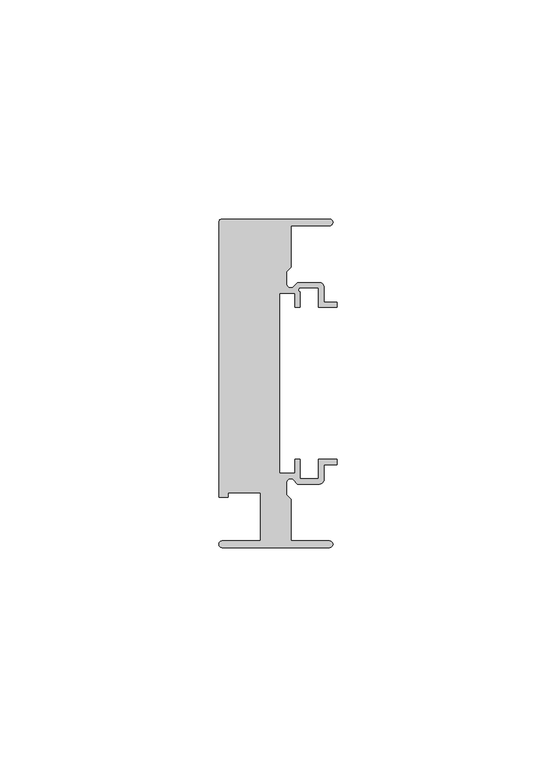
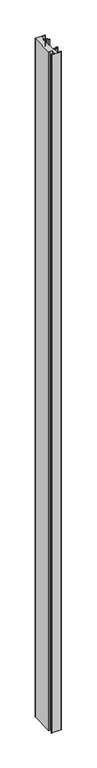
"""IFC4 building model written with IfcOpenShell, lengths in millimetres: member geometry, Прямоугольный импост : 5-AMG-1-Профиль 26Х75 Низ Л."""

from ifc_helpers import new_model, si_unit, point, frame, frame_2d, origin, place, context, project, spatial, polyline, circle_curve, trimmed, segment, composite_curve, outline, extrude, source, transform, mapped, element, save


def member_25cd3a2c(model_context):
    return source(origin(), model_context, "Body", "SweptSolid", [
        extrude(outline(composite_curve([segment(polyline([(-1.7, -37.5), (-26.25, -37.5)]), True, "CONTINUOUS"), segment(trimmed(circle_curve(frame_2d((-26.25, -36.75)), 0.75), [point((-26.25, -37.5))], [point((-26.25, -36.0))], False, "CARTESIAN"), True, "CONTINUOUS"), segment(polyline([(-26.25, -36.0), (-17.5, -36.0), (-17.5, -25.0), (-24.9359877, -25.0), (-24.9359877, -26.0), (-27.0, -26.0), (-27.0, 36.75)]), True, "CONTINUOUS"), segment(trimmed(circle_curve(frame_2d((-26.25, 36.75)), 0.75), [point((-27.0, 36.75))], [point((-26.25, 37.5))], False, "CARTESIAN"), True, "CONTINUOUS"), segment(polyline([(-26.25, 37.5), (-1.7, 37.5)]), True, "CONTINUOUS"), segment(trimmed(circle_curve(frame_2d((-1.7, 36.75)), 0.75), [point((-1.7, 37.5))], [point((-1.7, 36.0))], False, "CARTESIAN"), True, "CONTINUOUS"), segment(polyline([(-1.7, 36.0), (-10.5, 36.0), (-10.5, 26.5029437), (-11.5, 25.5029437), (-11.5, 22.6727922)]), True, "CONTINUOUS"), segment(trimmed(circle_curve(frame_2d((-10.6, 22.6727922)), 0.9), [point((-11.5, 22.6727922))], [point((-9.9636039, 22.0363961))], True, "CARTESIAN"), True, "CONTINUOUS"), segment(polyline([(-9.9636039, 22.0363961), (-9.0, 23.0), (-4.0, 23.0)]), True, "CONTINUOUS"), segment(trimmed(circle_curve(frame_2d((-4.0, 22.0)), 1.0), [point((-4.0, 23.0))], [point((-3.0, 22.0))], False, "CARTESIAN"), True, "CONTINUOUS"), segment(polyline([(-3.0, 22.0), (-3.0, 18.55), (0.0, 18.55), (0.0, 17.35), (-4.2, 17.35), (-4.2, 21.8), (-8.5029437, 21.8)]), True, "CONTINUOUS"), segment(trimmed(circle_curve(frame_2d((-8.3343131, 21.3314262)), 0.4979937), [point((-8.5029437, 21.8))], [point((-8.45, 20.8470563))], True, "CARTESIAN"), True, "CONTINUOUS"), segment(polyline([(-8.45, 20.8470563), (-8.45, 17.35), (-9.65, 17.35), (-9.65, 20.55), (-13.15, 20.55), (-13.15, -20.55), (-9.65, -20.55), (-9.65, -17.35), (-8.45, -17.35), (-8.45, -21.8), (-4.2, -21.8), (-4.2, -17.35), (0.0, -17.35), (0.0, -18.55), (-3.0, -18.55), (-3.0, -22.0)]), True, "CONTINUOUS"), segment(trimmed(circle_curve(frame_2d((-4.0, -22.0)), 1.0), [point((-3.0, -22.0))], [point((-4.0, -23.0))], False, "CARTESIAN"), True, "CONTINUOUS"), segment(polyline([(-4.0, -23.0), (-9.0, -23.0), (-9.9636039, -22.0363961)]), True, "CONTINUOUS"), segment(trimmed(circle_curve(frame_2d((-10.6, -22.6727922)), 0.9), [point((-9.9636039, -22.0363961))], [point((-11.5, -22.6727922))], True, "CARTESIAN"), True, "CONTINUOUS"), segment(polyline([(-11.5, -22.6727922), (-11.5, -25.5029437), (-10.5, -26.5029437), (-10.5, -36.0), (-1.7, -36.0)]), True, "CONTINUOUS"), segment(trimmed(circle_curve(frame_2d((-1.7, -36.75)), 0.75), [point((-1.7, -36.0))], [point((-1.7, -37.5))], False, "CARTESIAN"), True, "CONTINUOUS")], self_intersect=False)), frame((0.0, 0.0, -1875.0), z_axis=(0.0, 0.0, 1.0), x_axis=(1.0, 0.0, 0.0)), (0.0, 0.0, 1.0), 1875.0),
    ])


if __name__ == "__main__":
    model = new_model("IFC4")
    model_context = context("Model", 3, world=origin())
    ifc_project = project(units=[si_unit("LENGTHUNIT", "METRE", prefix="MILLI")], contexts=[model_context])
    site = spatial("IfcSite", under=ifc_project)
    building = spatial("IfcBuilding", under=site)
    placement = place(None, origin())
    member_shape = member_25cd3a2c(model_context)
    element("IfcMember", 1, ObjectType="Прямоугольный импост : 5-AMG-1-Профиль 26Х75 Низ Л", at=placement, inside=building, context=model_context, shape_type="MappedRepresentation", body=[
        mapped(member_shape, transform((0.0, 0.0, 0.0), x_axis=(1.0, 0.0, 0.0), y_axis=(0.0, 1.0, 0.0), z_axis=(0.0, 0.0, 1.0))),
    ])
    save(model, "model.ifc")
